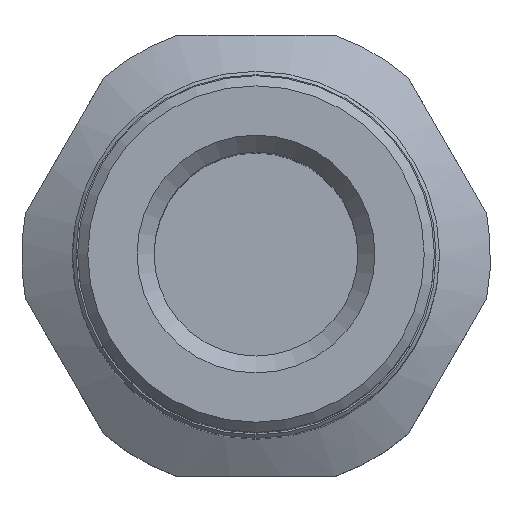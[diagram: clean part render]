
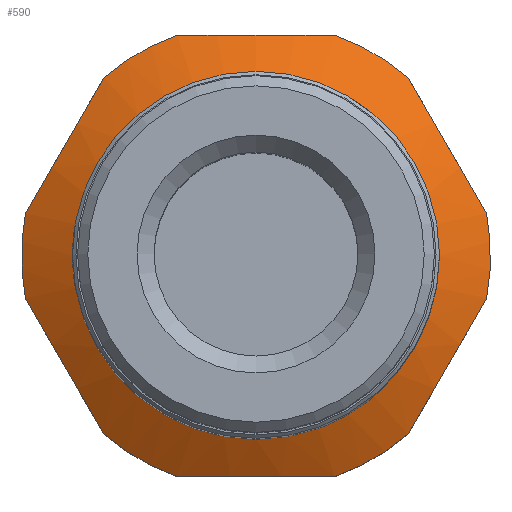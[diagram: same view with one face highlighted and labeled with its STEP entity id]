
A CAD part, top view. The second image highlights one B-rep face of the part: STEP entity #590.
In plain terms, the highlighted conical face has half-angle 60 degrees and reference radius 6.15 mm.
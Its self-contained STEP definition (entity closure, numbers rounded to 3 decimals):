
#42=(
BOUNDED_CURVE()
B_SPLINE_CURVE(2,(#933,#934,#935),.UNSPECIFIED.,.F.,.F.)
B_SPLINE_CURVE_WITH_KNOTS((3,3),(0.,0.465),.UNSPECIFIED.)
CURVE()
GEOMETRIC_REPRESENTATION_ITEM()
RATIONAL_B_SPLINE_CURVE((1.,1.062,1.))
REPRESENTATION_ITEM('')
);
#45=(
BOUNDED_CURVE()
B_SPLINE_CURVE(2,(#950,#951,#952),.UNSPECIFIED.,.F.,.F.)
B_SPLINE_CURVE_WITH_KNOTS((3,3),(0.,0.465),.UNSPECIFIED.)
CURVE()
GEOMETRIC_REPRESENTATION_ITEM()
RATIONAL_B_SPLINE_CURVE((1.,1.062,1.))
REPRESENTATION_ITEM('')
);
#48=(
BOUNDED_CURVE()
B_SPLINE_CURVE(2,(#967,#968,#969),.UNSPECIFIED.,.F.,.F.)
B_SPLINE_CURVE_WITH_KNOTS((3,3),(0.,0.465),.UNSPECIFIED.)
CURVE()
GEOMETRIC_REPRESENTATION_ITEM()
RATIONAL_B_SPLINE_CURVE((1.,1.062,1.))
REPRESENTATION_ITEM('')
);
#51=(
BOUNDED_CURVE()
B_SPLINE_CURVE(2,(#984,#985,#986),.UNSPECIFIED.,.F.,.F.)
B_SPLINE_CURVE_WITH_KNOTS((3,3),(0.,0.465),.UNSPECIFIED.)
CURVE()
GEOMETRIC_REPRESENTATION_ITEM()
RATIONAL_B_SPLINE_CURVE((1.,1.062,1.))
REPRESENTATION_ITEM('')
);
#53=(
BOUNDED_CURVE()
B_SPLINE_CURVE(2,(#995,#996,#997),.UNSPECIFIED.,.F.,.F.)
B_SPLINE_CURVE_WITH_KNOTS((3,3),(0.,0.465),.UNSPECIFIED.)
CURVE()
GEOMETRIC_REPRESENTATION_ITEM()
RATIONAL_B_SPLINE_CURVE((1.,1.062,1.))
REPRESENTATION_ITEM('')
);
#56=(
BOUNDED_CURVE()
B_SPLINE_CURVE(2,(#1012,#1013,#1014),.UNSPECIFIED.,.F.,.F.)
B_SPLINE_CURVE_WITH_KNOTS((3,3),(0.,0.465),.UNSPECIFIED.)
CURVE()
GEOMETRIC_REPRESENTATION_ITEM()
RATIONAL_B_SPLINE_CURVE((1.,1.062,1.))
REPRESENTATION_ITEM('')
);
#85=CONICAL_SURFACE('',#669,6.15,60.);
#103=FACE_BOUND('',#205,.T.);
#148=FACE_OUTER_BOUND('',#204,.T.);
#204=EDGE_LOOP('',(#496,#497,#498,#499,#500,#501,#502,#503,#504,#505,#506,
#507));
#205=EDGE_LOOP('',(#508));
#245=CIRCLE('',#646,6.9);
#246=CIRCLE('',#648,6.9);
#248=CIRCLE('',#651,6.9);
#251=CIRCLE('',#655,6.9);
#252=CIRCLE('',#657,6.9);
#259=CIRCLE('',#670,6.9);
#260=CIRCLE('',#671,5.4);
#286=VERTEX_POINT('',#930);
#287=VERTEX_POINT('',#932);
#291=VERTEX_POINT('',#947);
#292=VERTEX_POINT('',#949);
#296=VERTEX_POINT('',#964);
#297=VERTEX_POINT('',#966);
#301=VERTEX_POINT('',#981);
#302=VERTEX_POINT('',#983);
#304=VERTEX_POINT('',#993);
#305=VERTEX_POINT('',#994);
#309=VERTEX_POINT('',#1010);
#310=VERTEX_POINT('',#1011);
#314=VERTEX_POINT('',#1053);
#341=EDGE_CURVE('',#287,#286,#42,.T.);
#346=EDGE_CURVE('',#292,#291,#45,.T.);
#351=EDGE_CURVE('',#297,#296,#48,.T.);
#356=EDGE_CURVE('',#302,#301,#51,.T.);
#359=EDGE_CURVE('',#304,#305,#53,.T.);
#364=EDGE_CURVE('',#309,#310,#56,.T.);
#370=EDGE_CURVE('',#309,#305,#245,.T.);
#371=EDGE_CURVE('',#297,#310,#246,.T.);
#373=EDGE_CURVE('',#292,#301,#248,.T.);
#376=EDGE_CURVE('',#302,#296,#251,.T.);
#377=EDGE_CURVE('',#287,#291,#252,.T.);
#384=EDGE_CURVE('',#304,#286,#259,.T.);
#385=EDGE_CURVE('',#314,#314,#260,.T.);
#496=ORIENTED_EDGE('',*,*,#341,.T.);
#497=ORIENTED_EDGE('',*,*,#384,.F.);
#498=ORIENTED_EDGE('',*,*,#359,.T.);
#499=ORIENTED_EDGE('',*,*,#370,.F.);
#500=ORIENTED_EDGE('',*,*,#364,.T.);
#501=ORIENTED_EDGE('',*,*,#371,.F.);
#502=ORIENTED_EDGE('',*,*,#351,.T.);
#503=ORIENTED_EDGE('',*,*,#376,.F.);
#504=ORIENTED_EDGE('',*,*,#356,.T.);
#505=ORIENTED_EDGE('',*,*,#373,.F.);
#506=ORIENTED_EDGE('',*,*,#346,.T.);
#507=ORIENTED_EDGE('',*,*,#377,.F.);
#508=ORIENTED_EDGE('',*,*,#385,.T.);
#590=ADVANCED_FACE('',(#148,#103),#85,.T.);
#646=AXIS2_PLACEMENT_3D('',#1028,#785,#786);
#648=AXIS2_PLACEMENT_3D('',#1030,#789,#790);
#651=AXIS2_PLACEMENT_3D('',#1033,#795,#796);
#655=AXIS2_PLACEMENT_3D('',#1037,#803,#804);
#657=AXIS2_PLACEMENT_3D('',#1039,#807,#808);
#669=AXIS2_PLACEMENT_3D('',#1051,#831,#832);
#670=AXIS2_PLACEMENT_3D('',#1052,#833,#834);
#671=AXIS2_PLACEMENT_3D('',#1054,#835,#836);
#785=DIRECTION('center_axis',(0.,0.,-1.));
#786=DIRECTION('ref_axis',(1.,0.,0.));
#789=DIRECTION('center_axis',(0.,0.,-1.));
#790=DIRECTION('ref_axis',(1.,0.,0.));
#795=DIRECTION('center_axis',(0.,0.,-1.));
#796=DIRECTION('ref_axis',(1.,0.,0.));
#803=DIRECTION('center_axis',(0.,0.,-1.));
#804=DIRECTION('ref_axis',(1.,0.,0.));
#807=DIRECTION('center_axis',(0.,0.,-1.));
#808=DIRECTION('ref_axis',(1.,0.,0.));
#831=DIRECTION('center_axis',(0.,0.,-1.));
#832=DIRECTION('ref_axis',(0.,1.,0.));
#833=DIRECTION('center_axis',(0.,0.,-1.));
#834=DIRECTION('ref_axis',(1.,0.,0.));
#835=DIRECTION('center_axis',(0.,0.,-1.));
#836=DIRECTION('ref_axis',(1.,0.,0.));
#930=CARTESIAN_POINT('',(6.787,-1.245,-9.466));
#932=CARTESIAN_POINT('',(4.472,-5.255,-9.466));
#933=CARTESIAN_POINT('Ctrl Pts',(4.472,-5.255,-9.466));
#934=CARTESIAN_POINT('Ctrl Pts',(5.629,-3.25,-9.018));
#935=CARTESIAN_POINT('Ctrl Pts',(6.787,-1.245,-9.466));
#947=CARTESIAN_POINT('',(2.315,-6.5,-9.466));
#949=CARTESIAN_POINT('',(-2.315,-6.5,-9.466));
#950=CARTESIAN_POINT('Ctrl Pts',(-2.315,-6.5,-9.466));
#951=CARTESIAN_POINT('Ctrl Pts',(0.,-6.5,-9.018));
#952=CARTESIAN_POINT('Ctrl Pts',(2.315,-6.5,-9.466));
#964=CARTESIAN_POINT('',(-6.787,1.245,-9.466));
#966=CARTESIAN_POINT('',(-4.472,5.255,-9.466));
#967=CARTESIAN_POINT('Ctrl Pts',(-4.472,5.255,-9.466));
#968=CARTESIAN_POINT('Ctrl Pts',(-5.629,3.25,-9.018));
#969=CARTESIAN_POINT('Ctrl Pts',(-6.787,1.245,-9.466));
#981=CARTESIAN_POINT('',(-4.472,-5.255,-9.466));
#983=CARTESIAN_POINT('',(-6.787,-1.245,-9.466));
#984=CARTESIAN_POINT('Ctrl Pts',(-6.787,-1.245,-9.466));
#985=CARTESIAN_POINT('Ctrl Pts',(-5.629,-3.25,-9.018));
#986=CARTESIAN_POINT('Ctrl Pts',(-4.472,-5.255,-9.466));
#993=CARTESIAN_POINT('',(6.787,1.245,-9.466));
#994=CARTESIAN_POINT('',(4.472,5.255,-9.466));
#995=CARTESIAN_POINT('Ctrl Pts',(6.787,1.245,-9.466));
#996=CARTESIAN_POINT('Ctrl Pts',(5.629,3.25,-9.018));
#997=CARTESIAN_POINT('Ctrl Pts',(4.472,5.255,-9.466));
#1010=CARTESIAN_POINT('',(2.315,6.5,-9.466));
#1011=CARTESIAN_POINT('',(-2.315,6.5,-9.466));
#1012=CARTESIAN_POINT('Ctrl Pts',(2.315,6.5,-9.466));
#1013=CARTESIAN_POINT('Ctrl Pts',(0.,6.5,-9.018));
#1014=CARTESIAN_POINT('Ctrl Pts',(-2.315,6.5,-9.466));
#1028=CARTESIAN_POINT('Origin',(0.,0.,-9.466));
#1030=CARTESIAN_POINT('Origin',(0.,0.,-9.466));
#1033=CARTESIAN_POINT('Origin',(0.,0.,-9.466));
#1037=CARTESIAN_POINT('Origin',(0.,0.,-9.466));
#1039=CARTESIAN_POINT('Origin',(0.,0.,-9.466));
#1051=CARTESIAN_POINT('Origin',(0.,0.,-9.033));
#1052=CARTESIAN_POINT('Origin',(0.,0.,-9.466));
#1053=CARTESIAN_POINT('',(0.,5.4,-8.6));
#1054=CARTESIAN_POINT('Origin',(0.,0.,-8.6));
